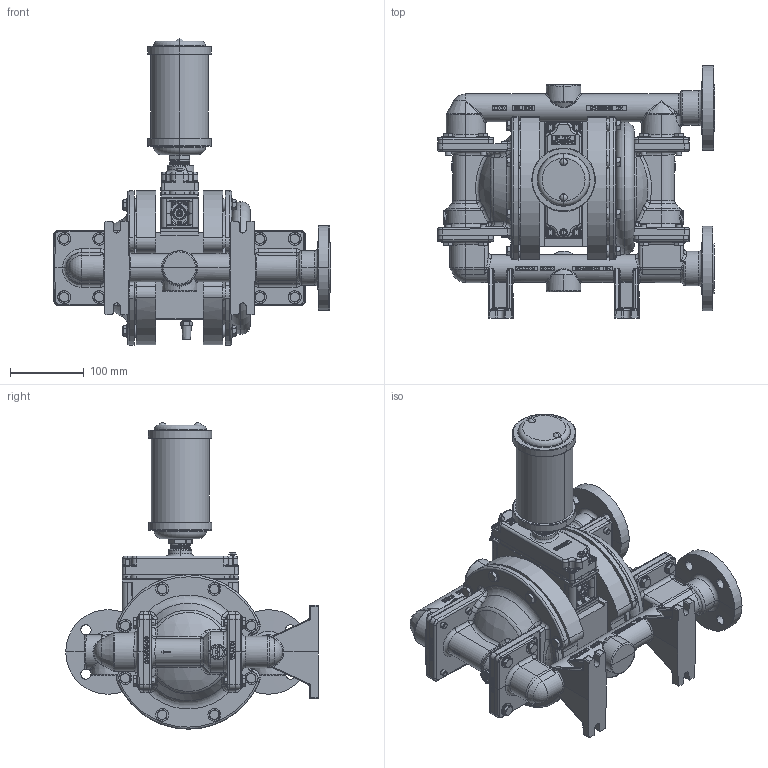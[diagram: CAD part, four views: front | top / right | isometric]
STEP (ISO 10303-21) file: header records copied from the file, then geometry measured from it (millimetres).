
FILE_DESCRIPTION (( 'STEP AP203' ), '1' );
FILE_NAME ('PS230_SS_DIN_Top.STEP', '2026-05-20T12:44:35', ( '' ), ( '' ), 'SwSTEP 2.0', 'SolidWorks 2022', '' );
FILE_SCHEMA (( 'CONFIG_CONTROL_DESIGN' ));
Length unit declared in the file: inch
Products named in the file (1): PS230_SS_DIN_Top
Bounding box: 377.63 x 343.54 x 416.87 mm (x, y, z)
Volume: 8810241.6 mm3; surface area: 673383.3 mm2
Topology: 1 solids, 1 shells, 6452 faces, 16725 edges, 10576 vertices
Faces by surface type: plane 4212, cylinder 915, bspline 490, cone 431, torus 257, sphere 147
Entity records: 254621 total; most frequent: CARTESIAN_POINT 100370, ORIENTED_EDGE 33418, DIRECTION 29889, EDGE_CURVE 16709, LINE 11927, VECTOR 11927, VERTEX_POINT 10570, AXIS2_PLACEMENT_3D 8981
